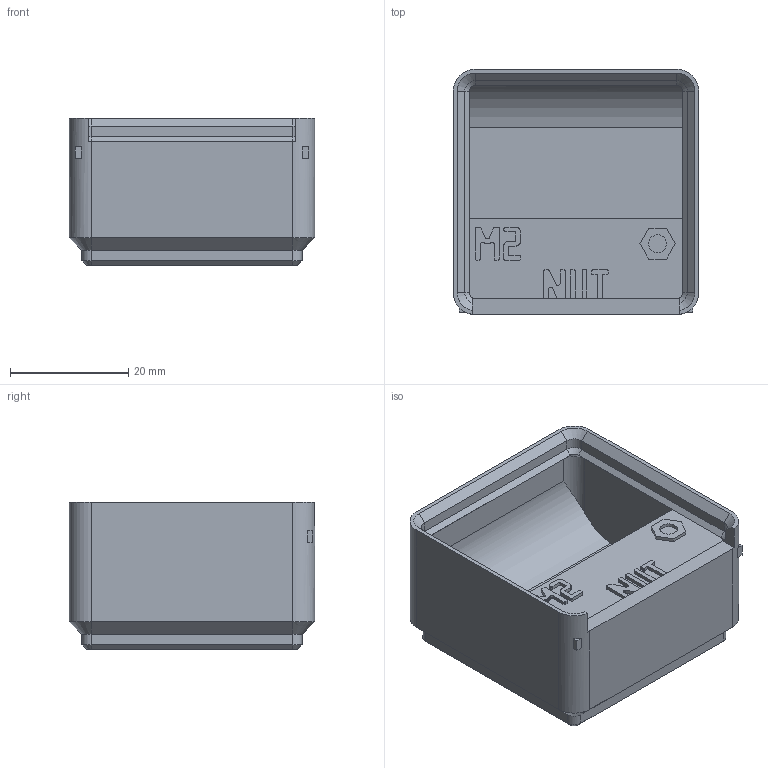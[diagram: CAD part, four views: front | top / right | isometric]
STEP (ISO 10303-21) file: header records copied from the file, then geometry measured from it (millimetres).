
FILE_DESCRIPTION(('Open CASCADE Model'),'2;1');
FILE_NAME('Open CASCADE Shape Model','2026-11-03T10:34:40',('Author'),( 'Open CASCADE'),'Open CASCADE STEP processor 8.0','build123d', 'Unknown');
FILE_SCHEMA(('AUTOMOTIVE_DESIGN { 1 0 10303 214 1 1 1 1 }'));
Length unit declared in the file: millimetre
Products named in the file (1): COMPOUND
Bounding box: 41.5 x 41.5 x 24.9 mm (x, y, z)
Volume: 13279.9 mm3; surface area: 10953.7 mm2
Topology: 1 solids, 1 shells, 556 faces, 1599 edges, 1050 vertices
Faces by surface type: plane 518, cone 20, cylinder 18
Full cylindrical faces by diameter (mm): 3 x1
Entity records: 37709 total; most frequent: CARTESIAN_POINT 8082, DIRECTION 4682, LINE 3437, VECTOR 3437, ORIENTED_EDGE 3198, PCURVE 3198, DEFINITIONAL_REPRESENTATION 3198, EDGE_CURVE 1599
